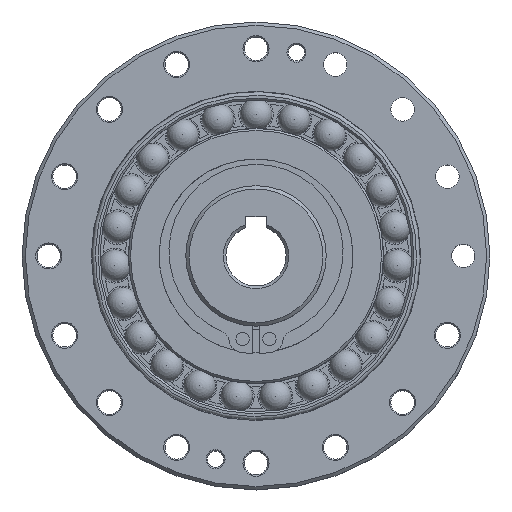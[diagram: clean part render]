
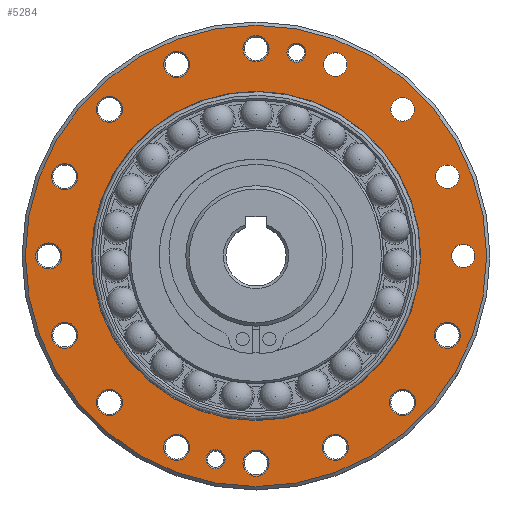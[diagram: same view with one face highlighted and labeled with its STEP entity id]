
A CAD part, top view. The second image highlights one B-rep face of the part: STEP entity #5284.
In plain terms, the highlighted planar face has unit normal (0, 0, 1).
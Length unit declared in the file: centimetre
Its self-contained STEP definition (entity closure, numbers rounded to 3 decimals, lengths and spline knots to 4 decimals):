
#1150=FACE_BOUND($,#1649,.T.);
#1151=FACE_BOUND($,#1650,.T.);
#1152=FACE_BOUND($,#1651,.T.);
#1153=FACE_BOUND($,#1652,.T.);
#1154=FACE_BOUND($,#1653,.T.);
#1155=FACE_BOUND($,#1654,.T.);
#1156=FACE_BOUND($,#1655,.T.);
#1157=FACE_BOUND($,#1656,.T.);
#1158=FACE_BOUND($,#1657,.T.);
#1159=FACE_BOUND($,#1658,.T.);
#1160=FACE_BOUND($,#1659,.T.);
#1161=FACE_BOUND($,#1660,.T.);
#1162=FACE_BOUND($,#1661,.T.);
#1163=FACE_BOUND($,#1662,.T.);
#1164=FACE_BOUND($,#1663,.T.);
#1165=FACE_BOUND($,#1664,.T.);
#1166=FACE_BOUND($,#1665,.T.);
#1167=FACE_BOUND($,#1666,.T.);
#1168=FACE_BOUND($,#1667,.T.);
#1169=FACE_BOUND($,#1668,.T.);
#1649=EDGE_LOOP($,(#4727));
#1650=EDGE_LOOP($,(#4728));
#1651=EDGE_LOOP($,(#4729));
#1652=EDGE_LOOP($,(#4730));
#1653=EDGE_LOOP($,(#4731));
#1654=EDGE_LOOP($,(#4732));
#1655=EDGE_LOOP($,(#4733));
#1656=EDGE_LOOP($,(#4734));
#1657=EDGE_LOOP($,(#4735));
#1658=EDGE_LOOP($,(#4736));
#1659=EDGE_LOOP($,(#4737));
#1660=EDGE_LOOP($,(#4738));
#1661=EDGE_LOOP($,(#4739));
#1662=EDGE_LOOP($,(#4740));
#1663=EDGE_LOOP($,(#4741));
#1664=EDGE_LOOP($,(#4742));
#1665=EDGE_LOOP($,(#4743));
#1666=EDGE_LOOP($,(#4744));
#1667=EDGE_LOOP($,(#4745));
#1668=EDGE_LOOP($,(#4746));
#2276=CIRCLE($,#6110,2.4634);
#2277=CIRCLE($,#6112,0.175);
#2278=CIRCLE($,#6113,0.175);
#2279=CIRCLE($,#6114,0.175);
#2280=CIRCLE($,#6115,0.175);
#2281=CIRCLE($,#6116,0.195);
#2282=CIRCLE($,#6117,0.195);
#2283=CIRCLE($,#6118,0.195);
#2284=CIRCLE($,#6119,0.195);
#2285=CIRCLE($,#6120,0.195);
#2286=CIRCLE($,#6121,0.195);
#2287=CIRCLE($,#6122,0.195);
#2288=CIRCLE($,#6123,0.195);
#2289=CIRCLE($,#6124,0.195);
#2290=CIRCLE($,#6125,0.195);
#2291=CIRCLE($,#6126,0.195);
#2292=CIRCLE($,#6127,0.195);
#2293=CIRCLE($,#6128,0.143);
#2294=CIRCLE($,#6129,0.143);
#2295=CIRCLE($,#6130,3.45);
#2742=VERTEX_POINT($,#9454);
#2743=VERTEX_POINT($,#9457);
#2744=VERTEX_POINT($,#9459);
#2745=VERTEX_POINT($,#9461);
#2746=VERTEX_POINT($,#9463);
#2747=VERTEX_POINT($,#9465);
#2748=VERTEX_POINT($,#9467);
#2749=VERTEX_POINT($,#9469);
#2750=VERTEX_POINT($,#9471);
#2751=VERTEX_POINT($,#9473);
#2752=VERTEX_POINT($,#9475);
#2753=VERTEX_POINT($,#9477);
#2754=VERTEX_POINT($,#9479);
#2755=VERTEX_POINT($,#9481);
#2756=VERTEX_POINT($,#9483);
#2757=VERTEX_POINT($,#9485);
#2758=VERTEX_POINT($,#9487);
#2759=VERTEX_POINT($,#9489);
#2760=VERTEX_POINT($,#9491);
#2761=VERTEX_POINT($,#9493);
#3410=EDGE_CURVE($,#2742,#2742,#2276,.T.);
#3411=EDGE_CURVE($,#2743,#2743,#2277,.T.);
#3412=EDGE_CURVE($,#2744,#2744,#2278,.T.);
#3413=EDGE_CURVE($,#2745,#2745,#2279,.T.);
#3414=EDGE_CURVE($,#2746,#2746,#2280,.T.);
#3415=EDGE_CURVE($,#2747,#2747,#2281,.T.);
#3416=EDGE_CURVE($,#2748,#2748,#2282,.T.);
#3417=EDGE_CURVE($,#2749,#2749,#2283,.T.);
#3418=EDGE_CURVE($,#2750,#2750,#2284,.T.);
#3419=EDGE_CURVE($,#2751,#2751,#2285,.T.);
#3420=EDGE_CURVE($,#2752,#2752,#2286,.T.);
#3421=EDGE_CURVE($,#2753,#2753,#2287,.T.);
#3422=EDGE_CURVE($,#2754,#2754,#2288,.T.);
#3423=EDGE_CURVE($,#2755,#2755,#2289,.T.);
#3424=EDGE_CURVE($,#2756,#2756,#2290,.T.);
#3425=EDGE_CURVE($,#2757,#2757,#2291,.T.);
#3426=EDGE_CURVE($,#2758,#2758,#2292,.T.);
#3427=EDGE_CURVE($,#2759,#2759,#2293,.T.);
#3428=EDGE_CURVE($,#2760,#2760,#2294,.T.);
#3429=EDGE_CURVE($,#2761,#2761,#2295,.T.);
#4727=ORIENTED_EDGE($,*,*,#3411,.F.);
#4728=ORIENTED_EDGE($,*,*,#3412,.F.);
#4729=ORIENTED_EDGE($,*,*,#3413,.F.);
#4730=ORIENTED_EDGE($,*,*,#3414,.F.);
#4731=ORIENTED_EDGE($,*,*,#3415,.F.);
#4732=ORIENTED_EDGE($,*,*,#3416,.F.);
#4733=ORIENTED_EDGE($,*,*,#3417,.F.);
#4734=ORIENTED_EDGE($,*,*,#3418,.F.);
#4735=ORIENTED_EDGE($,*,*,#3419,.F.);
#4736=ORIENTED_EDGE($,*,*,#3420,.F.);
#4737=ORIENTED_EDGE($,*,*,#3421,.F.);
#4738=ORIENTED_EDGE($,*,*,#3422,.F.);
#4739=ORIENTED_EDGE($,*,*,#3423,.F.);
#4740=ORIENTED_EDGE($,*,*,#3424,.F.);
#4741=ORIENTED_EDGE($,*,*,#3425,.F.);
#4742=ORIENTED_EDGE($,*,*,#3426,.F.);
#4743=ORIENTED_EDGE($,*,*,#3427,.F.);
#4744=ORIENTED_EDGE($,*,*,#3428,.F.);
#4745=ORIENTED_EDGE($,*,*,#3429,.F.);
#4746=ORIENTED_EDGE($,*,*,#3410,.T.);
#4988=PLANE($,#6111);
#5284=ADVANCED_FACE($,(#1150,#1151,#1152,#1153,#1154,#1155,#1156,#1157,
#1158,#1159,#1160,#1161,#1162,#1163,#1164,#1165,#1166,#1167,#1168,#1169),
#4988,.T.);
#6110=AXIS2_PLACEMENT_3D($,#9455,#7893,#7894);
#6111=AXIS2_PLACEMENT_3D($,#9456,#7895,#7896);
#6112=AXIS2_PLACEMENT_3D($,#9458,#7897,#7898);
#6113=AXIS2_PLACEMENT_3D($,#9460,#7899,#7900);
#6114=AXIS2_PLACEMENT_3D($,#9462,#7901,#7902);
#6115=AXIS2_PLACEMENT_3D($,#9464,#7903,#7904);
#6116=AXIS2_PLACEMENT_3D($,#9466,#7905,#7906);
#6117=AXIS2_PLACEMENT_3D($,#9468,#7907,#7908);
#6118=AXIS2_PLACEMENT_3D($,#9470,#7909,#7910);
#6119=AXIS2_PLACEMENT_3D($,#9472,#7911,#7912);
#6120=AXIS2_PLACEMENT_3D($,#9474,#7913,#7914);
#6121=AXIS2_PLACEMENT_3D($,#9476,#7915,#7916);
#6122=AXIS2_PLACEMENT_3D($,#9478,#7917,#7918);
#6123=AXIS2_PLACEMENT_3D($,#9480,#7919,#7920);
#6124=AXIS2_PLACEMENT_3D($,#9482,#7921,#7922);
#6125=AXIS2_PLACEMENT_3D($,#9484,#7923,#7924);
#6126=AXIS2_PLACEMENT_3D($,#9486,#7925,#7926);
#6127=AXIS2_PLACEMENT_3D($,#9488,#7927,#7928);
#6128=AXIS2_PLACEMENT_3D($,#9490,#7929,#7930);
#6129=AXIS2_PLACEMENT_3D($,#9492,#7931,#7932);
#6130=AXIS2_PLACEMENT_3D($,#9494,#7933,#7934);
#7893=DIRECTION('center_axis',(0.,0.,-1.));
#7894=DIRECTION('ref_axis',(1.,0.,0.));
#7895=DIRECTION('center_axis',(0.,0.,1.));
#7896=DIRECTION('ref_axis',(1.,0.,0.));
#7897=DIRECTION('center_axis',(0.,0.,1.));
#7898=DIRECTION('ref_axis',(1.,0.,0.));
#7899=DIRECTION('center_axis',(0.,0.,1.));
#7900=DIRECTION('ref_axis',(1.,0.,0.));
#7901=DIRECTION('center_axis',(0.,0.,1.));
#7902=DIRECTION('ref_axis',(1.,0.,0.));
#7903=DIRECTION('center_axis',(0.,0.,1.));
#7904=DIRECTION('ref_axis',(1.,0.,0.));
#7905=DIRECTION('center_axis',(0.,0.,1.));
#7906=DIRECTION('ref_axis',(-1.,0.,0.));
#7907=DIRECTION('center_axis',(0.,0.,1.));
#7908=DIRECTION('ref_axis',(-1.,0.,0.));
#7909=DIRECTION('center_axis',(0.,0.,1.));
#7910=DIRECTION('ref_axis',(-1.,0.,0.));
#7911=DIRECTION('center_axis',(0.,0.,1.));
#7912=DIRECTION('ref_axis',(-1.,0.,0.));
#7913=DIRECTION('center_axis',(0.,0.,1.));
#7914=DIRECTION('ref_axis',(-1.,0.,0.));
#7915=DIRECTION('center_axis',(0.,0.,1.));
#7916=DIRECTION('ref_axis',(-1.,0.,0.));
#7917=DIRECTION('center_axis',(0.,0.,1.));
#7918=DIRECTION('ref_axis',(-1.,0.,0.));
#7919=DIRECTION('center_axis',(0.,0.,1.));
#7920=DIRECTION('ref_axis',(-1.,0.,0.));
#7921=DIRECTION('center_axis',(0.,0.,1.));
#7922=DIRECTION('ref_axis',(-1.,0.,0.));
#7923=DIRECTION('center_axis',(0.,0.,1.));
#7924=DIRECTION('ref_axis',(-1.,0.,0.));
#7925=DIRECTION('center_axis',(0.,0.,1.));
#7926=DIRECTION('ref_axis',(-1.,0.,0.));
#7927=DIRECTION('center_axis',(0.,0.,1.));
#7928=DIRECTION('ref_axis',(-1.,0.,0.));
#7929=DIRECTION('center_axis',(0.,0.,1.));
#7930=DIRECTION('ref_axis',(-1.,0.,0.));
#7931=DIRECTION('center_axis',(0.,0.,1.));
#7932=DIRECTION('ref_axis',(-1.,0.,0.));
#7933=DIRECTION('center_axis',(0.,0.,-1.));
#7934=DIRECTION('ref_axis',(0.,-1.,0.));
#9454=CARTESIAN_POINT('',(0.,-2.4634,0.));
#9455=CARTESIAN_POINT('Origin',(0.,0.,0.));
#9456=CARTESIAN_POINT('Origin',(0.,-2.497,0.));
#9457=CARTESIAN_POINT('',(1.0113,2.864,0.));
#9458=CARTESIAN_POINT('Origin',(1.1863,2.864,0.));
#9459=CARTESIAN_POINT('',(2.689,1.1863,0.));
#9460=CARTESIAN_POINT('Origin',(2.864,1.1863,0.));
#9461=CARTESIAN_POINT('',(2.925,0.,0.));
#9462=CARTESIAN_POINT('Origin',(3.1,0.,0.));
#9463=CARTESIAN_POINT('',(2.017,2.192,0.));
#9464=CARTESIAN_POINT('Origin',(2.192,2.192,0.));
#9465=CARTESIAN_POINT('',(-2.669,1.1863,0.));
#9466=CARTESIAN_POINT('Origin',(-2.864,1.1863,0.));
#9467=CARTESIAN_POINT('',(-1.997,2.192,0.));
#9468=CARTESIAN_POINT('Origin',(-2.192,2.192,0.));
#9469=CARTESIAN_POINT('',(-0.9913,2.864,0.));
#9470=CARTESIAN_POINT('Origin',(-1.1863,2.864,0.));
#9471=CARTESIAN_POINT('',(0.195,3.1,0.));
#9472=CARTESIAN_POINT('Origin',(0.,3.1,0.));
#9473=CARTESIAN_POINT('',(3.059,-1.1863,0.));
#9474=CARTESIAN_POINT('Origin',(2.864,-1.1863,0.));
#9475=CARTESIAN_POINT('',(2.387,-2.192,0.));
#9476=CARTESIAN_POINT('Origin',(2.192,-2.192,0.));
#9477=CARTESIAN_POINT('',(1.3813,-2.864,0.));
#9478=CARTESIAN_POINT('Origin',(1.1863,-2.864,0.));
#9479=CARTESIAN_POINT('',(0.195,-3.1,0.));
#9480=CARTESIAN_POINT('Origin',(0.,-3.1,0.));
#9481=CARTESIAN_POINT('',(-0.9913,-2.864,0.));
#9482=CARTESIAN_POINT('Origin',(-1.1863,-2.864,0.));
#9483=CARTESIAN_POINT('',(-1.997,-2.192,0.));
#9484=CARTESIAN_POINT('Origin',(-2.192,-2.192,0.));
#9485=CARTESIAN_POINT('',(-2.669,-1.1863,0.));
#9486=CARTESIAN_POINT('Origin',(-2.864,-1.1863,0.));
#9487=CARTESIAN_POINT('',(-2.905,0.,0.));
#9488=CARTESIAN_POINT('Origin',(-3.1,0.,0.));
#9489=CARTESIAN_POINT('',(-0.4618,-3.0404,0.));
#9490=CARTESIAN_POINT('Origin',(-0.6048,-3.0404,0.));
#9491=CARTESIAN_POINT('',(0.7477,3.0404,0.));
#9492=CARTESIAN_POINT('Origin',(0.6048,3.0404,0.));
#9493=CARTESIAN_POINT('',(0.,3.45,0.));
#9494=CARTESIAN_POINT('Origin',(0.,0.,0.));
